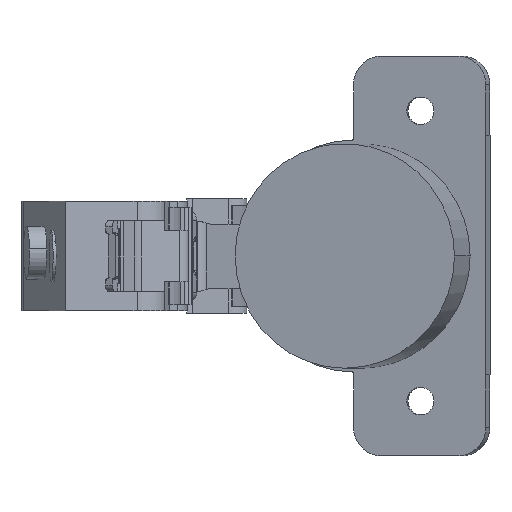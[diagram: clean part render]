
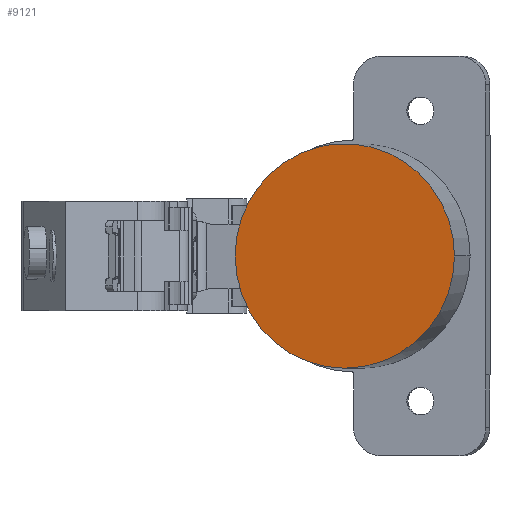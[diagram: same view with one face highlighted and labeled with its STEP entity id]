
A CAD part, left-side view. The second image highlights one B-rep face of the part: STEP entity #9121.
In plain terms, the highlighted planar face has unit normal (-0.977, 0.211, 0).
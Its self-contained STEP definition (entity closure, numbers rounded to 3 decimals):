
#319 = CIRCLE ( 'NONE', #11388, 17.4 ) ;
#558 = EDGE_LOOP ( 'NONE', ( #8883, #1127, #3360, #7404 ) ) ;
#1127 = ORIENTED_EDGE ( 'NONE', *, *, #3764, .T. ) ;
#1165 = CARTESIAN_POINT ( 'NONE',  ( 24.229, -7.978, 0. ) ) ;
#1393 = DIRECTION ( 'NONE',  ( 0., 0., 1. ) ) ;
#1858 = DIRECTION ( 'NONE',  ( -0.212, -0.977, 0. ) ) ;
#2168 = CIRCLE ( 'NONE', #9357, 17.4 ) ;
#2418 = CARTESIAN_POINT ( 'NONE',  ( 20.548, -24.984, 0. ) ) ;
#2510 = CARTESIAN_POINT ( 'NONE',  ( 23.752, -10.18, 17.259 ) ) ;
#2560 = DIRECTION ( 'NONE',  ( -0.212, -0.977, 0. ) ) ;
#3063 = FACE_OUTER_BOUND ( 'NONE', #558, .T. ) ;
#3167 = DIRECTION ( 'NONE',  ( -0.212, -0.977, 0. ) ) ;
#3307 = DIRECTION ( 'NONE',  ( -0.977, 0.212, 0. ) ) ;
#3360 = ORIENTED_EDGE ( 'NONE', *, *, #10591, .T. ) ;
#3764 = EDGE_CURVE ( 'NONE', #8834, #5513, #2168, .T. ) ;
#4092 = VERTEX_POINT ( 'NONE', #6933 ) ;
#4352 = CARTESIAN_POINT ( 'NONE',  ( 23.828, -9.83, 17.299 ) ) ;
#4622 = CARTESIAN_POINT ( 'NONE',  ( 24.747, -5.582, 17.339 ) ) ;
#4851 = DIRECTION ( 'NONE',  ( -0.977, 0.212, 0. ) ) ;
#4955 = CARTESIAN_POINT ( 'NONE',  ( 25.141, -3.761, 16.858 ) ) ;
#5219 = AXIS2_PLACEMENT_3D ( 'NONE', #7059, #10689, #1858 ) ;
#5513 = VERTEX_POINT ( 'NONE', #2418 ) ;
#5545 = CARTESIAN_POINT ( 'NONE',  ( 23.23, -12.592, 16.799 ) ) ;
#5768 = CIRCLE ( 'NONE', #5219, 17.4 ) ;
#6097 = CARTESIAN_POINT ( 'NONE',  ( 22.941, -13.928, 16.329 ) ) ;
#6363 = CARTESIAN_POINT ( 'NONE',  ( 24.343, -7.449, 17.501 ) ) ;
#6594 = PLANE ( 'NONE',  #8414 ) ;
#6715 = EDGE_CURVE ( 'NONE', #9546, #8834, #5768, .T. ) ;
#6903 = CARTESIAN_POINT ( 'NONE',  ( 23.576, -10.991, 17.14 ) ) ;
#6933 = CARTESIAN_POINT ( 'NONE',  ( 22.752, -14.802, 15.938 ) ) ;
#6956 = CARTESIAN_POINT ( 'NONE',  ( 27.909, 9.029, 0. ) ) ;
#7059 = CARTESIAN_POINT ( 'NONE',  ( 24.229, -7.978, 0. ) ) ;
#7404 = ORIENTED_EDGE ( 'NONE', *, *, #10436, .T. ) ;
#7561 = DIRECTION ( 'NONE',  ( -0.977, 0.212, 0. ) ) ;
#7888 = CARTESIAN_POINT ( 'NONE',  ( 23.903, -9.481, 17.334 ) ) ;
#8148 = CARTESIAN_POINT ( 'NONE',  ( 23.878, -9.596, 17.323 ) ) ;
#8414 = AXIS2_PLACEMENT_3D ( 'NONE', #10096, #4851, #1393 ) ;
#8736 = B_SPLINE_CURVE_WITH_KNOTS ( 'NONE', 3,
 ( #10411, #6097, #5545, #6903, #2510, #4352, #8148, #7888, #6363, #4622, #10749 ),
 .UNSPECIFIED., .F., .F.,
 ( 4, 1, 1, 1, 2, 2, 4 ),
 ( 0., 0.25, 0.375, 0.437, 0.469, 0.5, 1. ),
 .UNSPECIFIED. ) ;
#8834 = VERTEX_POINT ( 'NONE', #6956 ) ;
#8883 = ORIENTED_EDGE ( 'NONE', *, *, #6715, .T. ) ;
#9121 = ADVANCED_FACE ( 'NONE', ( #3063 ), #6594, .T. ) ;
#9357 = AXIS2_PLACEMENT_3D ( 'NONE', #9419, #3307, #2560 ) ;
#9419 = CARTESIAN_POINT ( 'NONE',  ( 24.229, -7.978, 0. ) ) ;
#9546 = VERTEX_POINT ( 'NONE', #4955 ) ;
#10096 = CARTESIAN_POINT ( 'NONE',  ( 24.229, -7.978, 0. ) ) ;
#10411 = CARTESIAN_POINT ( 'NONE',  ( 22.752, -14.802, 15.938 ) ) ;
#10436 = EDGE_CURVE ( 'NONE', #4092, #9546, #8736, .T. ) ;
#10591 = EDGE_CURVE ( 'NONE', #5513, #4092, #319, .T. ) ;
#10689 = DIRECTION ( 'NONE',  ( -0.977, 0.212, 0. ) ) ;
#10749 = CARTESIAN_POINT ( 'NONE',  ( 25.141, -3.761, 16.858 ) ) ;
#11388 = AXIS2_PLACEMENT_3D ( 'NONE', #1165, #7561, #3167 ) ;
